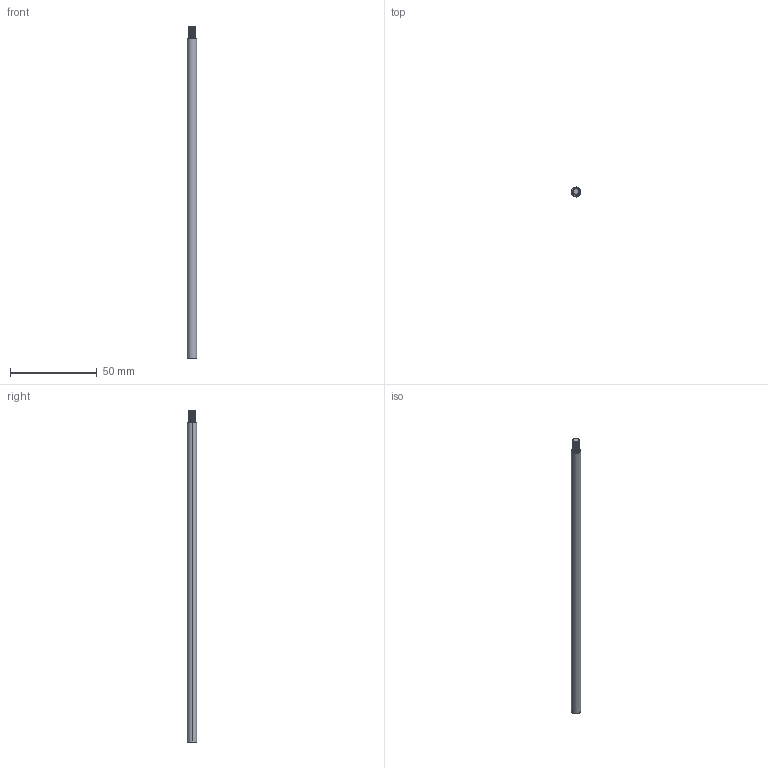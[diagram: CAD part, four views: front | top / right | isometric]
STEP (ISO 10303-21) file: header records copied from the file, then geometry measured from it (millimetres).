
FILE_DESCRIPTION (( 'STEP AP214' ), '1' );
FILE_NAME ('P-00011B - Auger Coupler Shaft - v2.1.6.STEP', '2025-05-04T23:40:52', ( '' ), ( '' ), 'SwSTEP 2.0', 'SolidWorks 2023', '' );
FILE_SCHEMA (( 'AUTOMOTIVE_DESIGN' ));
Length unit declared in the file: millimetre
Products named in the file (1): P-00011B - Auger Coupler Shaft - v2.1.6
Bounding box: 5.5 x 5.5 x 191.75 mm (x, y, z)
Volume: 4363.7 mm3; surface area: 3480 mm2
Topology: 1 solids, 1 shells, 37 faces, 96 edges, 61 vertices
Faces by surface type: cylinder 27, plane 4, bspline 4, cone 2
Entity records: 3137 total; most frequent: CARTESIAN_POINT 2377, ORIENTED_EDGE 188, DIRECTION 120, EDGE_CURVE 94, VERTEX_POINT 61, AXIS2_PLACEMENT_3D 44, EDGE_LOOP 39, FACE_OUTER_BOUND 37
